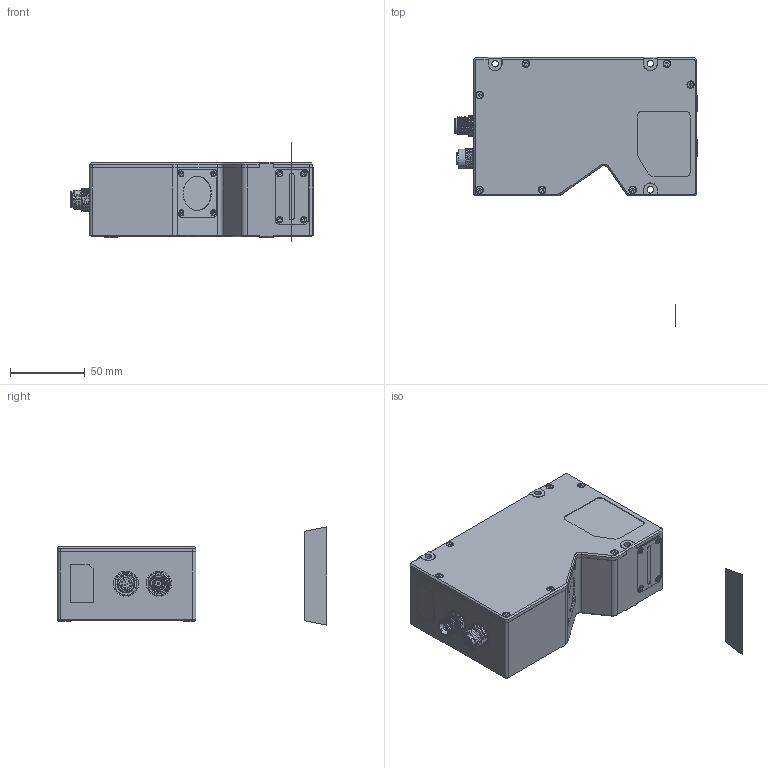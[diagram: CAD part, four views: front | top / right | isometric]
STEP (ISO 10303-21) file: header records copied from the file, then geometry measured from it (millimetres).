
FILE_DESCRIPTION((''),'2;1');
FILE_NAME('MV-DP2080-01P_SPEC','2025-06-21T16:32:54',('shiqiangsheng5'),(''),'CREO PARAMETRIC BY PTC INC, 2020044','CREO PARAMETRIC BY PTC INC, 2020044','');
FILE_SCHEMA(('AUTOMOTIVE_DESIGN { 1 0 10303 214 1 1 1 1 }'));
Products named in the file (1): MV-DP2080-01P_SPEC
Bounding box: 162.7 x 180.8 x 65.8 mm (x, y, z)
Surface area: 58611.4 mm2 (no closed solid volume)
Topology: 0 solids, 48 shells, 730 faces, 2505 edges, 1780 vertices
Faces by surface type: plane 259, cylinder 228, cone 159, bspline 50, torus 34
Entity records: 46693 total; most frequent: CARTESIAN_POINT 25808, ORIENTED_EDGE 4124, DIRECTION 4083, EDGE_CURVE 2461, VERTEX_POINT 1776, AXIS2_PLACEMENT_3D 1474, VECTOR 1135, LINE 1135
